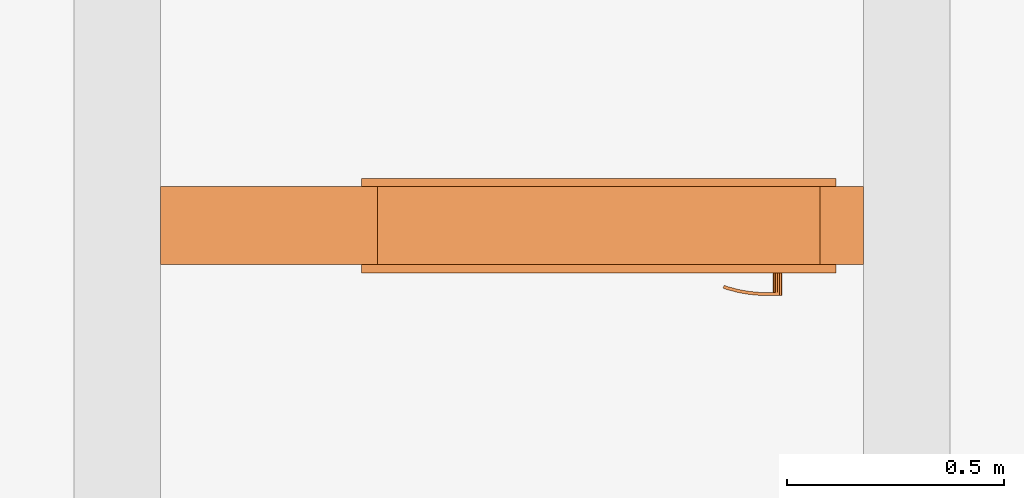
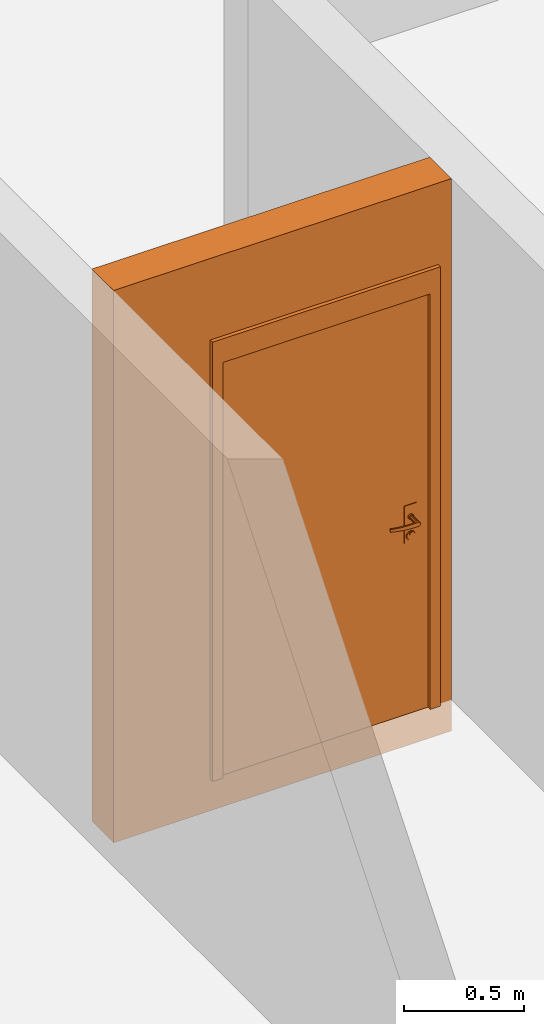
# One storey, part 21 of 61: 2 proxies, 1 opening.
"""IFC2X3 building model written with IfcOpenShell, lengths in millimetres."""

from ifc_helpers import new_model, entity, si_unit, converted_unit, derived_unit, money_unit, direction, frame, origin_with_axes, origin_2d_with_axis, place, context, subcontext, project, spatial, rectangle, extrude, open_shell, faceted_brep, surface_model, source, transform, mapped, material, type_object, element, fill, save


model = new_model("IFC2X3")

# Units and contexts
model_context = context("Model", 3, precision=0.01, world=origin_with_axes(), true_north=direction((0.34421633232, 0.938890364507)))
body_context = subcontext(model_context, "Body", "Model", "MODEL_VIEW")
ifc_project = project(units=[si_unit("LENGTHUNIT", "METRE", prefix="MILLI"), si_unit("AREAUNIT", "SQUARE_METRE"), si_unit("VOLUMEUNIT", "CUBIC_METRE"), converted_unit("PLANEANGLEUNIT", "DEGREE", entity("IfcPlaneAngleMeasure", 0.0174532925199), si_unit("PLANEANGLEUNIT", "RADIAN"), dimensions=[0, 0, 0, 0, 0, 0, 0]), si_unit("SOLIDANGLEUNIT", "STERADIAN"), money_unit("USD"), converted_unit("TIMEUNIT", "Year", entity("IfcTimeMeasure", 31556926.0), si_unit("TIMEUNIT", "SECOND"), dimensions=[0, 0, 1, 0, 0, 0, 0]), si_unit("MASSUNIT", "GRAM", prefix="KILO"), si_unit("THERMODYNAMICTEMPERATUREUNIT", "DEGREE_CELSIUS"), si_unit("LUMINOUSINTENSITYUNIT", "LUMEN"), si_unit("ENERGYUNIT", "JOULE", prefix="MEGA"), derived_unit("THERMALCONDUCTANCEUNIT", [(si_unit("POWERUNIT", "WATT"), 1), (si_unit("LENGTHUNIT", "METRE"), -1), (si_unit("THERMODYNAMICTEMPERATUREUNIT", "KELVIN"), -1)]), derived_unit("SPECIFICHEATCAPACITYUNIT", [(si_unit("ENERGYUNIT", "JOULE"), 1), (si_unit("MASSUNIT", "GRAM", prefix="KILO"), -1), (si_unit("THERMODYNAMICTEMPERATUREUNIT", "KELVIN"), -1)]), derived_unit("MASSDENSITYUNIT", [(si_unit("MASSUNIT", "GRAM", prefix="KILO"), 1), (si_unit("VOLUMEUNIT", "CUBIC_METRE"), -1)])], contexts=[model_context])

# Site, building, storey
site_placement = place(None, origin_with_axes())
site = spatial("IfcSite", under=ifc_project, at=site_placement, Name="USTRONIE MORSKIE", CompositionType="ELEMENT")
building_placement = place(site_placement, origin_with_axes())
building = spatial("IfcBuilding", under=site, at=building_placement, Name="Budynek", CompositionType="ELEMENT")
storey_placement = place(building_placement, frame((0.0, 0.0, 13000.0), z_axis=(0.0, 0.0, 1.0), x_axis=(1.0, 0.0, 0.0)))
storey = spatial("IfcBuildingStorey", under=building, at=storey_placement, Name="PIĘTRO 4", CompositionType="ELEMENT", Elevation=13000.0)

# Proxies, opening
ifc_material = material(Name="Bloczki silikatowe")
building_element_proxy_type_1 = type_object("IfcBuildingElementProxyType", Name="Bloczki silikatowe 180", PredefinedType="NOTDEFINED")
proxy_1_placement = place(storey_placement, frame((381137.920919, 731101.199132, -160.0), z_axis=(0.0, 0.0, 1.0), x_axis=(-1.0, 0.0, 0.0)))
proxy_1 = element("IfcBuildingElementProxy", 1, at=proxy_1_placement, inside=storey, type_object=building_element_proxy_type_1, material=ifc_material, Name="SW-02", context=body_context, shape_type="Brep", body=[
    faceted_brep([(1720.0, -90.0, 0.0), (1720.0, -90.0, 2800.0), (100.0, -90.0, 2800.0), (100.0, -90.0, 0.0), (1720.0, 90.0, 0.0), (1720.0, 90.0, 2800.0), (100.0, 90.0, 2800.0), (100.0, 90.0, 0.0)], [[[0, 1, 2, 3]], [[4, 5, 1, 0]], [[5, 6, 2, 1]], [[3, 2, 6, 7]], [[4, 0, 3, 7]], [[7, 6, 5, 4]]]),
])
opening_placement = place(proxy_1_placement, frame((710.0, 0.0, 160.0), z_axis=(0.0, 0.0, 1.0), x_axis=(1.0, 0.0, 0.0)))
opening = element("IfcOpeningElement", 2, at=opening_placement, cuts=proxy_1, Name="Dw.1", context=body_context, shape_type="SweptSolid", body=[
    extrude(rectangle(XDim=1020.0, YDim=2120.0, at=origin_2d_with_axis()), frame((0.0, -180.0, 1060.0), z_axis=(0.0, 1.0, 0.0), x_axis=(1.0, 0.0, 0.0)), (0.0, 0.0, 1.0), 540.0),
    extrude(rectangle(XDim=1094.0, YDim=2227.0, at=origin_2d_with_axis()), frame((0.0, -90.0, 1113.5), z_axis=(0.0, 1.0, 0.0), x_axis=(1.0, 0.0, 0.0)), (0.0, 0.0, -1.0), 180.0),
    extrude(rectangle(XDim=1094.0, YDim=2227.0, at=origin_2d_with_axis()), frame((0.0, 89.9999999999, 1113.5), z_axis=(0.0, -1.0, 0.0), x_axis=(1.0, 0.0, 0.0)), (0.0, 0.0, -1.0), 180.0),
])
building_element_proxy_type_2 = type_object("IfcBuildingElementProxyType", Name="Drzwi 23", PredefinedType="NOTDEFINED")
shared_shape = source(origin_with_axes(), body_context, "Body", "SurfaceModel", [
    faceted_brep([(-510.0, -115.0, 0.0), (-485.0, -115.0, 0.0), (-485.0, -180.0, 0.0), (-510.0, -180.0, 0.0), (-510.0, -115.0, 2120.0), (-485.0, -115.0, 2095.0), (-485.0, -180.0, 2095.0), (-510.0, -180.0, 2120.0)], [[[0, 1, 2, 3]], [[0, 4, 5, 1]], [[1, 5, 6, 2]], [[3, 2, 6, 7]], [[4, 0, 3, 7]], [[5, 4, 7, 6]]]),
    faceted_brep([(510.0, -115.0, 2120.0), (485.0, -115.0, 2095.0), (485.0, -180.0, 2095.0), (510.0, -180.0, 2120.0), (510.0, -115.0, 0.0), (485.0, -115.0, 0.0), (485.0, -180.0, 0.0), (510.0, -180.0, 0.0)], [[[0, 1, 2, 3]], [[0, 4, 5, 1]], [[1, 5, 6, 2]], [[3, 2, 6, 7]], [[4, 0, 3, 7]], [[5, 4, 7, 6]]]),
    faceted_brep([(-485.0, -115.0, 2095.0), (485.0, -115.0, 2095.0), (485.0, -180.0, 2095.0), (-485.0, -180.0, 2095.0), (-510.0, -115.0, 2120.0), (510.0, -115.0, 2120.0), (510.0, -180.0, 2120.0), (-510.0, -180.0, 2120.0)], [[[0, 1, 2, 3]], [[0, 4, 5, 1]], [[1, 5, 6, 2]], [[3, 2, 6, 7]], [[4, 0, 3, 7]], [[5, 4, 7, 6]]]),
    faceted_brep([(-547.0, -199.0, 0.0), (-547.0, -180.0, 0.0), (-497.0, -180.0, 0.0), (-497.0, -199.0, 0.0), (-547.0, -199.0, 2227.0), (-547.0, -180.0, 2227.0), (-497.0, -180.0, 2107.0), (-497.0, -199.0, 2107.0)], [[[0, 1, 2, 3]], [[4, 5, 1, 0]], [[1, 5, 6, 2]], [[3, 2, 6, 7]], [[0, 3, 7, 4]], [[7, 6, 5, 4]]]),
    faceted_brep([(547.0, -199.0, 2227.0), (547.0, -180.0, 2227.0), (497.0, -180.0, 2107.0), (497.0, -199.0, 2107.0), (547.0, -199.0, 0.0), (547.0, -180.0, 0.0), (497.0, -180.0, 0.0), (497.0, -199.0, 0.0)], [[[0, 1, 2, 3]], [[4, 5, 1, 0]], [[1, 5, 6, 2]], [[3, 2, 6, 7]], [[0, 3, 7, 4]], [[7, 6, 5, 4]]]),
    faceted_brep([(-547.0, -199.0, 2227.0), (-547.0, -180.0, 2227.0), (-497.0, -180.0, 2107.0), (-497.0, -199.0, 2107.0), (547.0, -199.0, 2227.0), (547.0, -180.0, 2227.0), (497.0, -180.0, 2107.0), (497.0, -199.0, 2107.0)], [[[0, 1, 2, 3]], [[4, 5, 1, 0]], [[1, 5, 6, 2]], [[3, 2, 6, 7]], [[0, 3, 7, 4]], [[7, 6, 5, 4]]]),
    faceted_brep([(-547.0, 19.0, 0.0), (-497.0, 19.0, 0.0), (-497.0, 0.0, 0.0), (-547.0, 0.0, 0.0), (-547.0, 19.0, 2227.0), (-497.0, 19.0, 2107.0), (-497.0, 0.0, 2107.0), (-547.0, 0.0, 2227.0)], [[[0, 1, 2, 3]], [[0, 4, 5, 1]], [[1, 5, 6, 2]], [[3, 2, 6, 7]], [[4, 0, 3, 7]], [[5, 4, 7, 6]]]),
    faceted_brep([(547.0, 19.0, 2227.0), (497.0, 19.0, 2107.0), (497.0, 0.0, 2107.0), (547.0, 0.0, 2227.0), (547.0, 19.0, 0.0), (497.0, 19.0, 0.0), (497.0, 0.0, 0.0), (547.0, 0.0, 0.0)], [[[0, 1, 2, 3]], [[0, 4, 5, 1]], [[1, 5, 6, 2]], [[3, 2, 6, 7]], [[4, 0, 3, 7]], [[5, 4, 7, 6]]]),
    faceted_brep([(-547.0, 19.0, 2227.0), (-497.0, 19.0, 2107.0), (-497.0, 0.0, 2107.0), (-547.0, 0.0, 2227.0), (547.0, 19.0, 2227.0), (497.0, 19.0, 2107.0), (497.0, 0.0, 2107.0), (547.0, 0.0, 2227.0)], [[[0, 1, 2, 3]], [[0, 4, 5, 1]], [[1, 5, 6, 2]], [[3, 2, 6, 7]], [[4, 0, 3, 7]], [[5, 4, 7, 6]]]),
    faceted_brep([(-450.0, -40.0, 0.0), (-450.0, -40.0, 2050.0), (-450.0, -115.0, 2050.0), (-450.0, -115.0, 0.0), (-462.0, -40.0, 2050.0), (-462.0, -40.0, 0.0), (-462.0, 0.0, 2050.0), (-510.0, 0.0, 2050.0), (-510.0, -115.0, 2050.0), (-510.0, -115.0, 0.0), (-510.0, 0.0, 0.0), (-462.0, 0.0, 0.0)], [[[0, 1, 2, 3]], [[4, 1, 0, 5]], [[4, 6, 7, 8, 2, 1]], [[3, 2, 8, 9]], [[5, 0, 3, 9, 10, 11]], [[6, 4, 5, 11]], [[6, 11, 10, 7]], [[10, 9, 8, 7]]]),
    faceted_brep([(462.0, -40.0, 2050.0), (450.0, -40.0, 2050.0), (450.0, -115.0, 2050.0), (510.0, -115.0, 2050.0), (510.0, 0.0, 2050.0), (462.0, 0.0, 2050.0), (462.0, -40.0, 0.0), (450.0, -40.0, 0.0), (450.0, -115.0, 0.0), (510.0, -115.0, 0.0), (510.0, 0.0, 0.0), (462.0, 0.0, 0.0)], [[[0, 1, 2, 3, 4, 5]], [[1, 0, 6, 7]], [[1, 7, 8, 2]], [[3, 2, 8, 9]], [[4, 3, 9, 10]], [[11, 5, 4, 10]], [[0, 5, 11, 6]], [[6, 11, 10, 9, 8, 7]]]),
    faceted_brep([(-462.0, 0.0, 2062.0), (-462.0, 0.0, 2050.0), (-510.0, 0.0, 2050.0), (-510.0, 0.0, 2120.0), (510.0, 0.0, 2120.0), (510.0, 0.0, 2050.0), (462.0, 0.0, 2050.0), (462.0, 0.0, 2062.0), (-462.0, -40.0, 2062.0), (-462.0, -40.0, 2050.0), (-450.0, -40.0, 2050.0), (-450.0, -115.0, 2050.0), (-510.0, -115.0, 2050.0), (-510.0, -115.0, 2120.0), (510.0, -115.0, 2120.0), (510.0, -115.0, 2050.0), (462.0, -40.0, 2050.0), (450.0, -115.0, 2050.0), (450.0, -40.0, 2050.0), (462.0, -40.0, 2062.0)], [[[0, 1, 2, 3, 4, 5, 6, 7]], [[1, 0, 8, 9]], [[9, 10, 11, 12, 2, 1]], [[2, 12, 13, 3]], [[3, 13, 14, 4]], [[4, 14, 15, 5]], [[16, 6, 5, 15, 17, 18]], [[7, 6, 16, 19]], [[0, 7, 19, 8]], [[16, 18, 10, 9, 8, 19]], [[10, 18, 17, 11]], [[17, 15, 14, 13, 12, 11]]]),
    faceted_brep([(-440.5, -40.0, 1060.0), (-440.5, -43.0, 1060.0), (-383.5, -43.0, 1060.0), (-383.5, -40.0, 1060.0), (-440.5, -40.0, 870.0), (-440.5, -43.0, 870.0), (-383.5, -43.0, 870.0), (-383.5, -40.0, 870.0)], [[[0, 1, 2, 3]], [[4, 5, 1, 0]], [[1, 5, 6, 2]], [[3, 2, 6, 7]], [[0, 3, 7, 4]], [[7, 6, 5, 4]]]),
    faceted_brep([(-412.0, -104.0, 990.0), (-412.0, -111.0, 990.0), (-417.0, -111.0, 991.339745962), (-417.0, -104.0, 991.339745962), (-387.0, -104.0, 990.0), (-387.0, -111.0, 990.0), (-387.0, -111.0, 1010.0), (-412.0, -111.0, 1010.0), (-417.0, -111.0, 1008.66025404), (-420.660254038, -111.0, 1005.0), (-422.0, -111.0, 1000.0), (-420.660254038, -111.0, 995.0), (-420.660254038, -104.0, 995.0), (-422.0, -104.0, 1000.0), (-420.660254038, -104.0, 1005.0), (-417.0, -104.0, 1008.66025404), (-412.0, -104.0, 1010.0), (-387.0, -104.0, 1010.0)], [[[0, 1, 2, 3]], [[4, 5, 1, 0]], [[1, 5, 6, 7, 8, 9, 10, 11, 2]], [[3, 2, 11, 12]], [[0, 3, 12, 13, 14, 15, 16, 17, 4]], [[17, 6, 5, 4]], [[16, 7, 6, 17]], [[15, 8, 7, 16]], [[14, 9, 8, 15]], [[13, 10, 9, 14]], [[12, 11, 10, 13]]]),
    surface_model("IfcShellBasedSurfaceModel", [(-387.0, -104.0, 1010.0), (-373.596090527, -111.0, 1009.60730092), (-373.901717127, -104.0, 1009.60730092), (-387.0, -111.0, 1010.0), (-346.890283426, -108.663544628, 1008.82190275), (-373.901717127, -104.0, 990.392699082), (-387.0, -104.0, 990.0), (-387.0, -111.0, 990.0), (-373.596090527, -111.0, 990.392699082), (-346.890283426, -108.663544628, 991.178097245), (-347.804837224, -101.716818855, 1008.82190275), (-347.804837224, -101.716818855, 991.178097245), (-320.489735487, -104.008415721, 991.963495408), (-320.489735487, -104.008415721, 1008.03650459), (-322.006256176, -97.1678329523, 1008.03650459), (-322.006256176, -97.1678329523, 991.963495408), (-294.59537082, -97.0700416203, 992.748893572), (-294.59537082, -97.0700416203, 1007.25110643), (-296.702316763, -90.3876628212, 1007.25110643), (-296.702316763, -90.3876628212, 992.748893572), (-286.538795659, -94.1376880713, 993.0), (-286.538795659, -94.1376880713, 1007.0), (-288.829442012, -87.5221707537, 1007.0), (-288.829442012, -87.5221707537, 993.0)], [open_shell([[[0, 1, 2]], [[0, 3, 1]], [[2, 1, 4]], [[0, 2, 5, 6]], [[3, 7, 8, 1]], [[1, 8, 9, 4]], [[2, 4, 10]], [[2, 10, 11, 5]], [[5, 7, 6]], [[5, 8, 7]], [[11, 9, 8]], [[4, 9, 12, 13]], [[10, 4, 13]], [[10, 14, 15, 11]], [[11, 8, 5]], [[15, 9, 11]], [[15, 12, 9]], [[13, 12, 16, 17]], [[10, 13, 14]], [[14, 18, 19, 15]], [[19, 12, 15]], [[19, 16, 12]], [[17, 16, 20, 21]], [[14, 13, 17]], [[14, 17, 18]], [[18, 22, 23, 19]], [[23, 16, 19]], [[23, 20, 16]], [[22, 21, 20, 23]], [[18, 17, 21]], [[18, 21, 22]]])]),
    faceted_brep([(-401.607695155, -53.0, 994.0), (-400.741669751, -43.0, 993.5), (-399.0, -43.0, 1000.0), (-400.0, -53.0, 1000.0), (-406.0, -53.0, 989.607695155), (-405.5, -43.0, 988.741669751), (-412.0, -43.0, 987.0), (-418.5, -43.0, 988.741669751), (-423.258330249, -43.0, 993.5), (-425.0, -43.0, 1000.0), (-423.258330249, -43.0, 1006.5), (-418.5, -43.0, 1011.25833025), (-412.0, -43.0, 1013.0), (-405.5, -43.0, 1011.25833025), (-400.741669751, -43.0, 1006.5), (-401.607695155, -53.0, 1006.0), (-406.0, -53.0, 1010.39230485), (-412.0, -53.0, 1012.0), (-418.0, -53.0, 1010.39230485), (-422.392304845, -53.0, 1006.0), (-424.0, -53.0, 1000.0), (-422.392304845, -53.0, 994.0), (-418.0, -53.0, 989.607695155), (-412.0, -53.0, 988.0)], [[[0, 1, 2, 3]], [[4, 5, 1, 0]], [[2, 1, 5, 6, 7, 8, 9, 10, 11, 12, 13, 14]], [[3, 2, 14, 15]], [[3, 15, 16, 17, 18, 19, 20, 21, 22, 23, 4, 0]], [[23, 6, 5, 4]], [[22, 7, 6, 23]], [[21, 8, 7, 22]], [[20, 9, 8, 21]], [[19, 10, 9, 20]], [[18, 11, 10, 19]], [[17, 12, 11, 18]], [[16, 13, 12, 17]], [[15, 14, 13, 16]]]),
    faceted_brep([(-394.679491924, -47.0, 895.0), (-392.947441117, -43.0, 894.0), (-390.0, -43.0, 905.0), (-392.0, -47.0, 905.0), (-402.0, -47.0, 887.679491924), (-401.0, -43.0, 885.947441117), (-412.0, -43.0, 883.0), (-423.0, -43.0, 885.947441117), (-431.052558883, -43.0, 894.0), (-434.0, -43.0, 905.0), (-431.052558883, -43.0, 916.0), (-423.0, -43.0, 924.052558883), (-412.0, -43.0, 927.0), (-401.0, -43.0, 924.052558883), (-392.947441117, -43.0, 916.0), (-394.679491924, -47.0, 915.0), (-402.0, -47.0, 922.320508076), (-412.0, -47.0, 925.0), (-422.0, -47.0, 922.320508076), (-429.320508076, -47.0, 915.0), (-432.0, -47.0, 905.0), (-429.320508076, -47.0, 895.0), (-422.0, -47.0, 887.679491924), (-412.0, -47.0, 885.0)], [[[0, 1, 2, 3]], [[4, 5, 1, 0]], [[2, 1, 5, 6, 7, 8, 9, 10, 11, 12, 13, 14]], [[3, 2, 14, 15]], [[3, 15, 16, 17, 18, 19, 20, 21, 22, 23, 4, 0]], [[23, 6, 5, 4]], [[22, 7, 6, 23]], [[21, 8, 7, 22]], [[20, 9, 8, 21]], [[19, 10, 9, 20]], [[18, 11, 10, 19]], [[17, 12, 11, 18]], [[16, 13, 12, 17]], [[15, 14, 13, 16]]]),
    faceted_brep([(-407.050252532, -49.0, 909.050252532), (-406.343145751, -47.0, 908.343145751), (-404.0, -47.0, 914.0), (-405.0, -49.0, 914.0), (-412.0, -49.0, 907.0), (-412.0, -47.0, 906.0), (-417.656854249, -47.0, 908.343145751), (-420.0, -47.0, 914.0), (-417.656854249, -47.0, 919.656854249), (-412.0, -47.0, 922.0), (-406.343145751, -47.0, 919.656854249), (-407.050252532, -49.0, 918.949747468), (-412.0, -49.0, 921.0), (-416.949747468, -49.0, 918.949747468), (-419.0, -49.0, 914.0), (-416.949747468, -49.0, 909.050252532)], [[[0, 1, 2, 3]], [[4, 5, 1, 0]], [[2, 1, 5, 6, 7, 8, 9, 10]], [[3, 2, 10, 11]], [[3, 11, 12, 13, 14, 15, 4, 0]], [[15, 6, 5, 4]], [[14, 7, 6, 15]], [[13, 8, 7, 14]], [[12, 9, 8, 13]], [[11, 10, 9, 12]]]),
    faceted_brep([(-412.0, -53.0, 1010.0), (-412.0, -104.0, 1010.0), (-407.0, -104.0, 1008.66025404), (-407.0, -53.0, 1008.66025404), (-417.0, -53.0, 1008.66025404), (-417.0, -104.0, 1008.66025404), (-420.660254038, -104.0, 1005.0), (-422.0, -104.0, 1000.0), (-420.660254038, -104.0, 995.0), (-417.0, -104.0, 991.339745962), (-412.0, -104.0, 990.0), (-407.0, -104.0, 991.339745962), (-403.339745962, -104.0, 995.0), (-402.0, -104.0, 1000.0), (-403.339745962, -104.0, 1005.0), (-403.339745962, -53.0, 1005.0), (-402.0, -53.0, 1000.0), (-403.339745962, -53.0, 995.0), (-407.0, -53.0, 991.339745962), (-412.0, -53.0, 990.0), (-417.0, -53.0, 991.339745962), (-420.660254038, -53.0, 995.0), (-422.0, -53.0, 1000.0), (-420.660254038, -53.0, 1005.0)], [[[0, 1, 2, 3]], [[4, 5, 1, 0]], [[1, 5, 6, 7, 8, 9, 10, 11, 12, 13, 14, 2]], [[3, 2, 14, 15]], [[0, 3, 15, 16, 17, 18, 19, 20, 21, 22, 23, 4]], [[23, 6, 5, 4]], [[22, 7, 6, 23]], [[21, 8, 7, 22]], [[20, 9, 8, 21]], [[19, 10, 9, 20]], [[18, 11, 10, 19]], [[17, 12, 11, 18]], [[16, 13, 12, 17]], [[15, 14, 13, 16]]]),
    faceted_brep([(-440.5, 0.0, 1060.0), (-383.5, 0.0, 1060.0), (-383.5, 3.0, 1060.0), (-440.5, 3.0, 1060.0), (-440.5, 0.0, 870.0), (-383.5, 0.0, 870.0), (-383.5, 3.0, 870.0), (-440.5, 3.0, 870.0)], [[[0, 1, 2, 3]], [[0, 4, 5, 1]], [[1, 5, 6, 2]], [[3, 2, 6, 7]], [[4, 0, 3, 7]], [[5, 4, 7, 6]]]),
    faceted_brep([(-412.0, 64.0, 990.0), (-417.0, 64.0, 991.339745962), (-417.0, 71.0, 991.339745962), (-412.0, 71.0, 990.0), (-387.0, 64.0, 990.0), (-387.0, 64.0, 1010.0), (-412.0, 64.0, 1010.0), (-417.0, 64.0, 1008.66025404), (-420.660254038, 64.0, 1005.0), (-422.0, 64.0, 1000.0), (-420.660254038, 64.0, 995.0), (-420.660254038, 71.0, 995.0), (-422.0, 71.0, 1000.0), (-420.660254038, 71.0, 1005.0), (-417.0, 71.0, 1008.66025404), (-412.0, 71.0, 1010.0), (-387.0, 71.0, 1010.0), (-387.0, 71.0, 990.0)], [[[0, 1, 2, 3]], [[0, 4, 5, 6, 7, 8, 9, 10, 1]], [[1, 10, 11, 2]], [[3, 2, 11, 12, 13, 14, 15, 16, 17]], [[4, 0, 3, 17]], [[5, 4, 17, 16]], [[6, 5, 16, 15]], [[7, 6, 15, 14]], [[8, 7, 14, 13]], [[9, 8, 13, 12]], [[10, 9, 12, 11]]]),
    surface_model("IfcShellBasedSurfaceModel", [(-387.0, 64.0, 1010.0), (-373.901717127, 64.0, 1009.60730092), (-373.596090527, 71.0, 1009.60730092), (-387.0, 64.0, 990.0), (-373.901717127, 64.0, 990.392699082), (-346.890283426, 68.6635446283, 1008.82190275), (-387.0, 71.0, 1010.0), (-387.0, 71.0, 990.0), (-347.804837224, 61.716818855, 991.178097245), (-347.804837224, 61.716818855, 1008.82190275), (-346.890283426, 68.6635446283, 991.178097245), (-373.596090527, 71.0, 990.392699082), (-322.006256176, 57.1678329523, 991.963495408), (-322.006256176, 57.1678329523, 1008.03650459), (-320.489735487, 64.0084157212, 1008.03650459), (-320.489735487, 64.0084157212, 991.963495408), (-296.702316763, 50.3876628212, 992.748893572), (-296.702316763, 50.3876628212, 1007.25110643), (-294.59537082, 57.0700416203, 1007.25110643), (-294.59537082, 57.0700416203, 992.748893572), (-288.829442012, 47.5221707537, 993.0), (-288.829442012, 47.5221707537, 1007.0), (-286.538795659, 54.1376880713, 1007.0), (-286.538795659, 54.1376880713, 993.0)], [open_shell([[[0, 1, 2]], [[0, 3, 4, 1]], [[1, 5, 2]], [[0, 2, 6]], [[4, 3, 7]], [[1, 4, 8, 9]], [[1, 9, 5]], [[2, 5, 10, 11]], [[6, 2, 11, 7]], [[4, 7, 11]], [[8, 4, 11]], [[9, 8, 12, 13]], [[9, 14, 5]], [[5, 14, 15, 10]], [[8, 11, 10]], [[12, 8, 10]], [[13, 12, 16, 17]], [[9, 13, 14]], [[14, 18, 19, 15]], [[12, 10, 15]], [[16, 12, 15]], [[17, 16, 20, 21]], [[13, 17, 18]], [[13, 18, 14]], [[18, 22, 23, 19]], [[16, 15, 19]], [[20, 16, 19]], [[21, 20, 23, 22]], [[17, 21, 22]], [[17, 22, 18]], [[20, 19, 23]]])]),
    faceted_brep([(-401.607695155, 13.0, 994.0), (-400.0, 13.0, 1000.0), (-399.0, 3.0, 1000.0), (-400.741669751, 3.0, 993.5), (-406.0, 13.0, 989.607695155), (-412.0, 13.0, 988.0), (-418.0, 13.0, 989.607695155), (-422.392304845, 13.0, 994.0), (-424.0, 13.0, 1000.0), (-422.392304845, 13.0, 1006.0), (-418.0, 13.0, 1010.39230485), (-412.0, 13.0, 1012.0), (-406.0, 13.0, 1010.39230485), (-401.607695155, 13.0, 1006.0), (-400.741669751, 3.0, 1006.5), (-405.5, 3.0, 1011.25833025), (-412.0, 3.0, 1013.0), (-418.5, 3.0, 1011.25833025), (-423.258330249, 3.0, 1006.5), (-425.0, 3.0, 1000.0), (-423.258330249, 3.0, 993.5), (-418.5, 3.0, 988.741669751), (-412.0, 3.0, 987.0), (-405.5, 3.0, 988.741669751)], [[[0, 1, 2, 3]], [[1, 0, 4, 5, 6, 7, 8, 9, 10, 11, 12, 13]], [[1, 13, 14, 2]], [[2, 14, 15, 16, 17, 18, 19, 20, 21, 22, 23, 3]], [[4, 0, 3, 23]], [[5, 4, 23, 22]], [[6, 5, 22, 21]], [[7, 6, 21, 20]], [[8, 7, 20, 19]], [[9, 8, 19, 18]], [[10, 9, 18, 17]], [[11, 10, 17, 16]], [[12, 11, 16, 15]], [[13, 12, 15, 14]]]),
    faceted_brep([(-394.679491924, 7.0, 895.0), (-392.0, 7.0, 905.0), (-390.0, 3.0, 905.0), (-392.947441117, 3.0, 894.0), (-402.0, 7.0, 887.679491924), (-412.0, 7.0, 885.0), (-422.0, 7.0, 887.679491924), (-429.320508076, 7.0, 895.0), (-432.0, 7.0, 905.0), (-429.320508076, 7.0, 915.0), (-422.0, 7.0, 922.320508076), (-412.0, 7.0, 925.0), (-402.0, 7.0, 922.320508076), (-394.679491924, 7.0, 915.0), (-392.947441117, 3.0, 916.0), (-401.0, 3.0, 924.052558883), (-412.0, 3.0, 927.0), (-423.0, 3.0, 924.052558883), (-431.052558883, 3.0, 916.0), (-434.0, 3.0, 905.0), (-431.052558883, 3.0, 894.0), (-423.0, 3.0, 885.947441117), (-412.0, 3.0, 883.0), (-401.0, 3.0, 885.947441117)], [[[0, 1, 2, 3]], [[1, 0, 4, 5, 6, 7, 8, 9, 10, 11, 12, 13]], [[1, 13, 14, 2]], [[2, 14, 15, 16, 17, 18, 19, 20, 21, 22, 23, 3]], [[4, 0, 3, 23]], [[5, 4, 23, 22]], [[6, 5, 22, 21]], [[7, 6, 21, 20]], [[8, 7, 20, 19]], [[9, 8, 19, 18]], [[10, 9, 18, 17]], [[11, 10, 17, 16]], [[12, 11, 16, 15]], [[13, 12, 15, 14]]]),
    faceted_brep([(-407.050252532, 9.0, 909.050252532), (-405.0, 9.0, 914.0), (-404.0, 7.0, 914.0), (-406.343145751, 7.0, 908.343145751), (-412.0, 9.0, 907.0), (-416.949747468, 9.0, 909.050252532), (-419.0, 9.0, 914.0), (-416.949747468, 9.0, 918.949747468), (-412.0, 9.0, 921.0), (-407.050252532, 9.0, 918.949747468), (-406.343145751, 7.0, 919.656854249), (-412.0, 7.0, 922.0), (-417.656854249, 7.0, 919.656854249), (-420.0, 7.0, 914.0), (-417.656854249, 7.0, 908.343145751), (-412.0, 7.0, 906.0)], [[[0, 1, 2, 3]], [[1, 0, 4, 5, 6, 7, 8, 9]], [[1, 9, 10, 2]], [[2, 10, 11, 12, 13, 14, 15, 3]], [[4, 0, 3, 15]], [[5, 4, 15, 14]], [[6, 5, 14, 13]], [[7, 6, 13, 12]], [[8, 7, 12, 11]], [[9, 8, 11, 10]]]),
    faceted_brep([(-412.0, 13.0, 1010.0), (-407.0, 13.0, 1008.66025404), (-407.0, 64.0, 1008.66025404), (-412.0, 64.0, 1010.0), (-417.0, 13.0, 1008.66025404), (-420.660254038, 13.0, 1005.0), (-422.0, 13.0, 1000.0), (-420.660254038, 13.0, 995.0), (-417.0, 13.0, 991.339745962), (-412.0, 13.0, 990.0), (-407.0, 13.0, 991.339745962), (-403.339745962, 13.0, 995.0), (-402.0, 13.0, 1000.0), (-403.339745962, 13.0, 1005.0), (-403.339745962, 64.0, 1005.0), (-402.0, 64.0, 1000.0), (-403.339745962, 64.0, 995.0), (-407.0, 64.0, 991.339745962), (-412.0, 64.0, 990.0), (-417.0, 64.0, 991.339745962), (-420.660254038, 64.0, 995.0), (-422.0, 64.0, 1000.0), (-420.660254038, 64.0, 1005.0), (-417.0, 64.0, 1008.66025404)], [[[0, 1, 2, 3]], [[0, 4, 5, 6, 7, 8, 9, 10, 11, 12, 13, 1]], [[1, 13, 14, 2]], [[3, 2, 14, 15, 16, 17, 18, 19, 20, 21, 22, 23]], [[4, 0, 3, 23]], [[5, 4, 23, 22]], [[6, 5, 22, 21]], [[7, 6, 21, 20]], [[8, 7, 20, 19]], [[9, 8, 19, 18]], [[10, 9, 18, 17]], [[11, 10, 17, 16]], [[12, 11, 16, 15]], [[13, 12, 15, 14]]]),
    faceted_brep([(462.0, 0.0, 0.0), (462.0, -40.0, 0.0), (-462.0, -40.0, 0.0), (-462.0, 0.0, 0.0), (462.0, 0.0, 2062.0), (462.0, -40.0, 2062.0), (-462.0, -40.0, 2062.0), (-462.0, 0.0, 2062.0)], [[[0, 1, 2, 3]], [[4, 5, 1, 0]], [[1, 5, 6, 2]], [[3, 2, 6, 7]], [[0, 3, 7, 4]], [[7, 6, 5, 4]]]),
])
proxy_2_placement = place(opening_placement, frame((-450.0, 0.0, 0.0), z_axis=(0.0, 0.0, 1.0), x_axis=(1.0, 0.0, 0.0)))
proxy_2 = element("IfcBuildingElementProxy", 3, at=proxy_2_placement, inside=storey, type_object=building_element_proxy_type_2, Name="Dw.1", context=body_context, shape_type="MappedRepresentation", body=[
    mapped(shared_shape, transform((450.0, 89.9999999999, 0.0))),
])
fill(opening, proxy_2)

save(model, "model.ifc")
